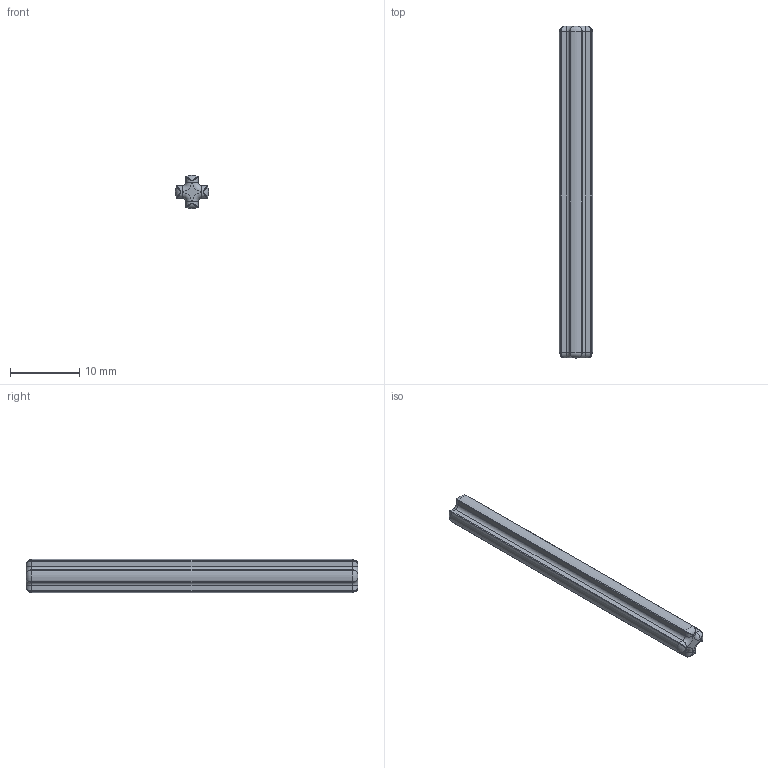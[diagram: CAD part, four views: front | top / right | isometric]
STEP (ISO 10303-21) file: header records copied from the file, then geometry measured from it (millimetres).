
FILE_DESCRIPTION(/* description */ ('Unknown'),/* implementation_level */ '2;1');
FILE_NAME(/* name */ 'Black_370626_JCA',/* time_stamp */ '2025-07-21T23:42:53+02:00',/* author */ ('Unknown'),/* organization */ ('Unknown'),/* preprocessor_version */ 'ST-DEVELOPER v19.4',/* originating_system */ 'Solid Edge',/* authorisation */ 'Unknown');
FILE_SCHEMA (('AUTOMOTIVE_DESIGN {1 0 10303 214 3 1 1}'));
Length unit declared in the file: millimetre
Products named in the file (1): Black_370626_JCA
Bounding box: 4.79 x 48 x 4.79 mm (x, y, z)
Volume: 659.6 mm3; surface area: 830.6 mm2
Topology: 1 solids, 1 shells, 74 faces, 168 edges, 80 vertices
Faces by surface type: cylinder 32, torus 16, bspline 16, plane 10
Entity records: 2142 total; most frequent: CARTESIAN_POINT 659, ORIENTED_EDGE 304, DIRECTION 302, EDGE_CURVE 152, AXIS2_PLACEMENT_3D 123, VERTEX_POINT 80, EDGE_LOOP 74, FACE_BOUND 74
